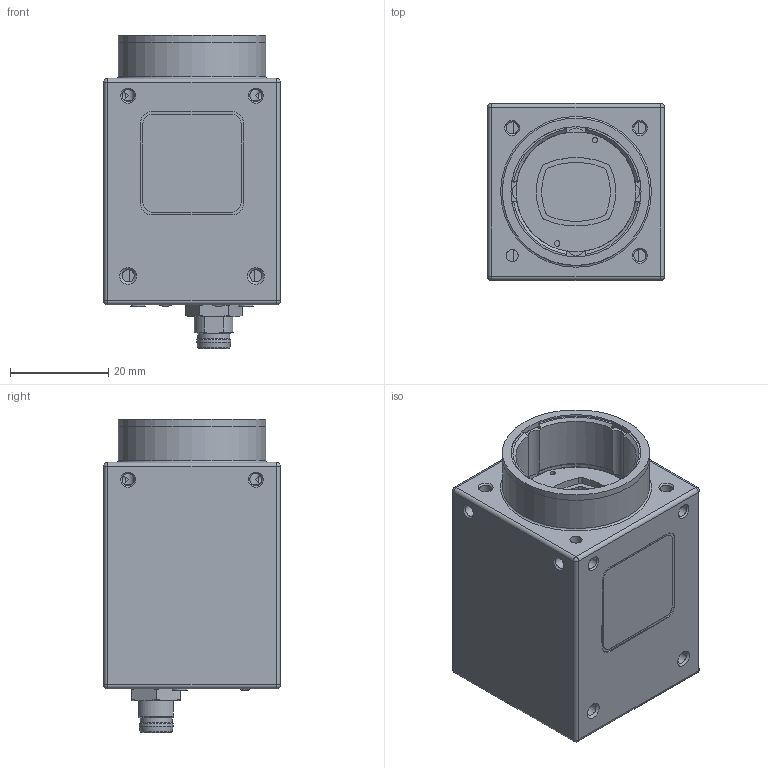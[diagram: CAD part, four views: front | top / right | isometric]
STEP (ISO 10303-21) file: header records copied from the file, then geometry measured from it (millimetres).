
FILE_DESCRIPTION(/* description */ ('Unknown'),/* implementation_level */ '2;1');
FILE_NAME(/* name */ '11706164_VCXG-14SWIR.XC',/* time_stamp */ '2023-09-05T11:57:22+02:00',/* author */ ('Unknown'),/* organization */ ('Baumer'),/* preprocessor_version */ 'ST-DEVELOPER v16.7',/* originating_system */ 'Solid Edge',/* authorisation */ 'Unknown');
FILE_SCHEMA (('AUTOMOTIVE_DESIGN {1 0 10303 214 3 1 1}'));
Products named in the file (12): D0001011126-DBG VCXG-51M.XC; D0001011125-Gehäuse VCXG L XC vereinf; ModularJack-1x180_LED(8pol)_NEXUS_1610000; D0001002159-Deckel VCXG-VEXG K46; 11183789; 11161839; 11149139; 11104603; 11149144; IMX545; M8-ST-8S_1780000; 11080147
Assembly tree (14 placements, depth 2):
  D0001011126-DBG VCXG-51M.XC
    D0001011125-Gehäuse VCXG L XC vereinf
    ModularJack-1x180_LED(8pol)_NEXUS_1610000
    D0001002159-Deckel VCXG-VEXG K46
    11183789
    11161839
    11149139
    11104603
    11149144
    IMX545
    M8-ST-8S_1780000
    11080147  x4
Bounding box: 36 x 36 x 63.75 mm (x, y, z)
Volume: 30402 mm3; surface area: 28498.5 mm2
Topology: 18 solids, 18 shells, 2292 faces, 6223 edges, 4056 vertices
Faces by surface type: plane 1298, cylinder 756, cone 86, torus 58, sphere 52, bspline 42
Full cylindrical faces by diameter (mm): 0.217 x1, 0.6 x16, 0.9 x117, 1.1 x2, 1.221 x6, 1.4 x4, 1.567 x2, 1.6 x4, 1.9 x4, 2.459 x22, 3 x4, 6.5 x1, 6.9 x1, 8.4 x1, 9 x1, 9.4 x2, 12 x1, 26 x1, 26.5 x1, 26.9 x1, 30 x2
Entity records: 80962 total; most frequent: CARTESIAN_POINT 14553, ORIENTED_EDGE 10984, DIRECTION 10967, EDGE_CURVE 5492, AXIS2_PLACEMENT_3D 3781, VERTEX_POINT 3683, LINE 3405, VECTOR 3405
